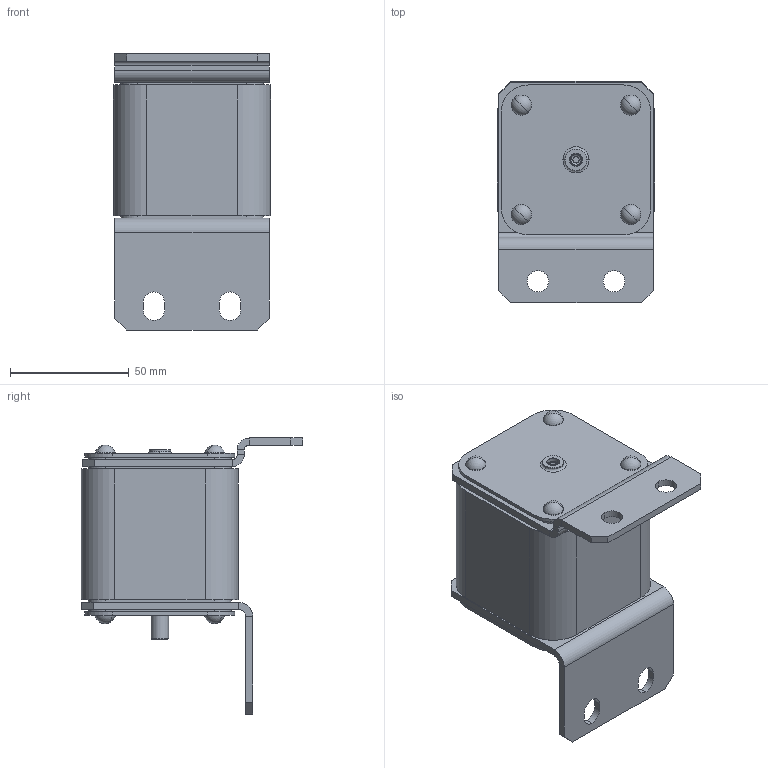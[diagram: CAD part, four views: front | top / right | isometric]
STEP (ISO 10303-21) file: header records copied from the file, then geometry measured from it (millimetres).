
FILE_DESCRIPTION (( 'STEP AP214' ), '1' );
FILE_NAME ('ﾏﾏ60ﾑ-40ﾊ1-XXXX-XXXX-ﾊﾝﾀﾇ.STEP', '2023-04-28T13:08:38', ( '' ), ( '' ), 'SwSTEP 2.0', 'SolidWorks 2018', '' );
FILE_SCHEMA (( 'AUTOMOTIVE_DESIGN' ));
Length unit declared in the file: millimetre
Products named in the file (1): ﾏﾏ60ﾑ-40ﾊ1-XXXX-XXXX-ﾊﾝﾀﾇ
Bounding box: 66 x 93 x 116 mm (x, y, z)
Volume: 284950.1 mm3; surface area: 51842.6 mm2
Topology: 1 solids, 10 shells, 362 faces, 804 edges, 502 vertices
Faces by surface type: plane 178, cylinder 132, torus 28, sphere 16, cone 8
Entity records: 14072 total; most frequent: DIRECTION 1936, CARTESIAN_POINT 1669, ORIENTED_EDGE 1608, EDGE_CURVE 804, AXIS2_PLACEMENT_3D 769, VERTEX_POINT 502, EDGE_LOOP 410, CIRCLE 406
